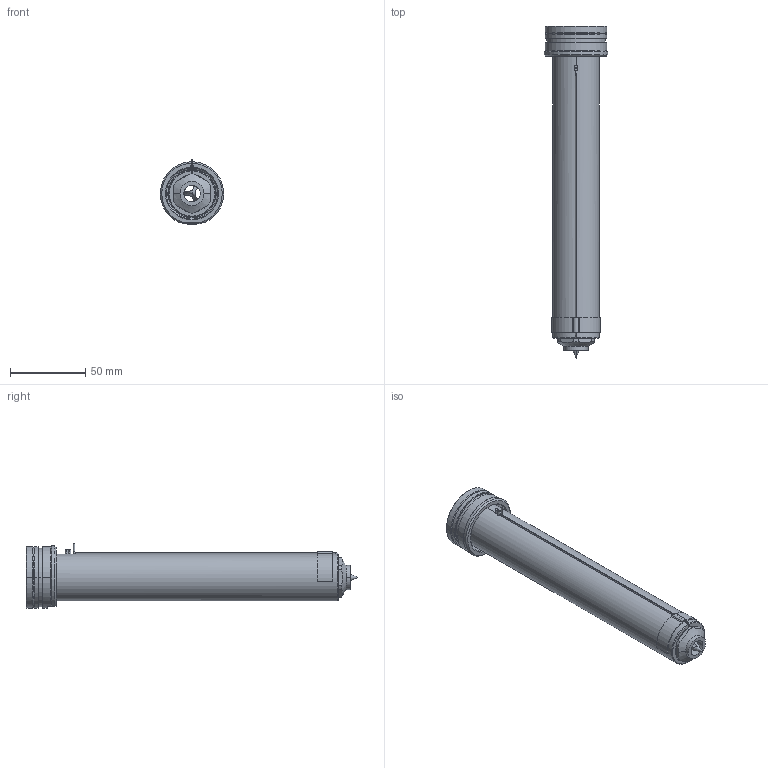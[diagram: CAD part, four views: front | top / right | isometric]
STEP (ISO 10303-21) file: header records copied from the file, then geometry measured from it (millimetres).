
FILE_DESCRIPTION((''),'2;1');
FILE_NAME('EO12_PG-BL_STD_200_SW','2024-02-19T11:13:13',('sundharh'),(''),'CREO PARAMETRIC BY PTC INC, 2023154','CREO PARAMETRIC BY PTC INC, 2023154','');
FILE_SCHEMA(('CONFIG_CONTROL_DESIGN'));
Length unit declared in the file: millimetre
Products named in the file (1): EO12_PG-BL_STD_200_SW
Bounding box: 41.85 x 220 x 43 mm (x, y, z)
Volume: 144846.6 mm3; surface area: 37733.4 mm2
Topology: 2 solids, 3 shells, 212 faces, 561 edges, 346 vertices
Faces by surface type: cylinder 80, plane 59, cone 41, torus 27, bspline 3, sphere 2
Entity records: 7721 total; most frequent: CARTESIAN_POINT 2331, DIRECTION 1193, ORIENTED_EDGE 1114, EDGE_CURVE 557, AXIS2_PLACEMENT_3D 502, VERTEX_POINT 346, CIRCLE 293, EDGE_LOOP 229
